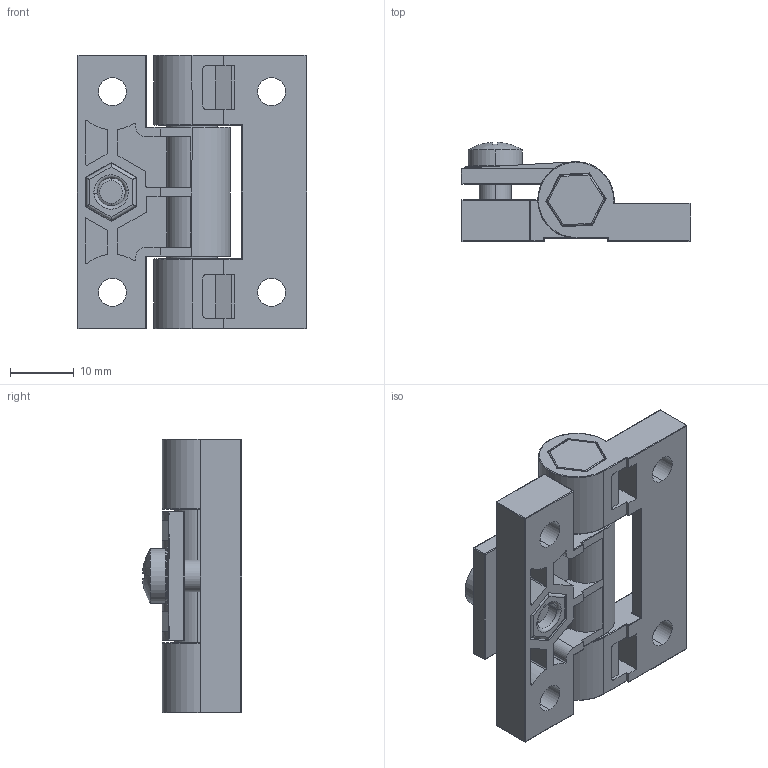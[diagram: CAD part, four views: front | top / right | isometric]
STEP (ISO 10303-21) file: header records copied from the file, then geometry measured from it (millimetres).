
FILE_DESCRIPTION (( 'STEP AP214' ), '1' );
FILE_NAME ('HL044.STEP', '2023-07-24T06:22:11', ( '' ), ( '' ), 'SwSTEP 2.0', 'SolidWorks 2019', '' );
FILE_SCHEMA (( 'AUTOMOTIVE_DESIGN' ));
Length unit declared in the file: millimetre
Products named in the file (6): GB／T818-2000十字槽盘头螺钉M5×10; HL044; HL044-B - ; HL044-A; M5 準梓蹟譫-HL044
Assembly tree (5 placements, depth 2):
  HL044
    HL044
    HL044-A
    HL044-B - 
    M5 準梓蹟譫-HL044
    GB／T818-2000十字槽盘头螺钉M5×10
Bounding box: 36 x 15.58 x 43 mm (x, y, z)
Volume: 9662.7 mm3; surface area: 9470 mm2
Topology: 5 solids, 5 shells, 433 faces, 1045 edges, 603 vertices
Faces by surface type: cylinder 187, plane 174, torus 32, sphere 20, bspline 14, cone 6
Entity records: 12771 total; most frequent: CARTESIAN_POINT 2701, DIRECTION 2113, ORIENTED_EDGE 2030, EDGE_CURVE 1015, AXIS2_PLACEMENT_3D 757, VERTEX_POINT 603, LINE 599, VECTOR 599
